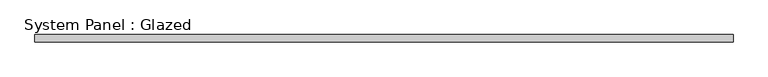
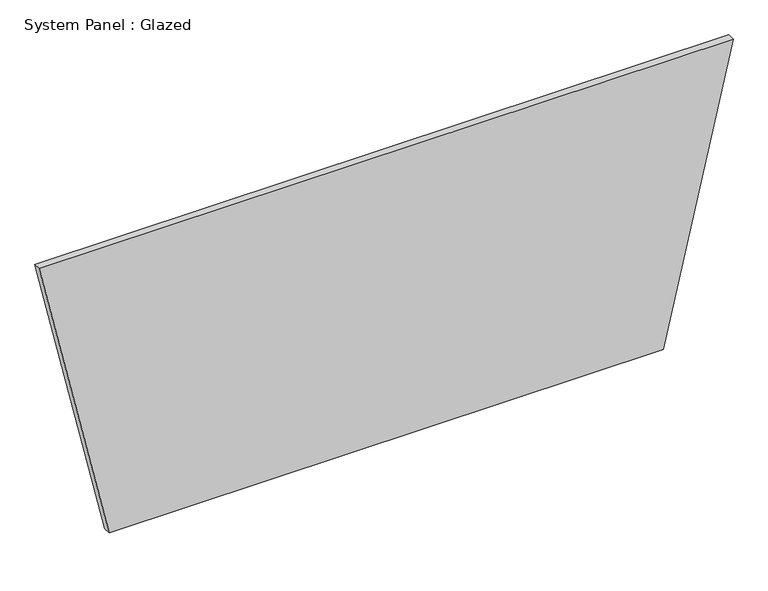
"""IFC4 building model written with IfcOpenShell, lengths in millimetres: plate geometry, System Panel : Glazed."""

import ifcopenshell
import ifcopenshell.guid

model = None  # the IFC model being written
_history = None  # IfcOwnerHistory: only IFC2X3 demands one
_inside = {}  # id of a spatial element -> (the spatial element, [elements in it])
_under = {}  # id of a project, library or spatial element -> (it, [spatial elements below it])
_declared = {}  # id of a project -> (the project, [libraries it declares])
_typed = {}  # id of a type object -> (the type object, [elements of that type])
_made_of = {}  # id of a material, layer set ... -> (it, [elements and type objects made of it])


def new_model(schema):
    """Start an empty IFC model of exactly this schema.

    Asked for "IFC4X3", IfcOpenShell would pick the latest addendum, in which some entities
    have other attributes; the version numbers below select the first issue.
    IFC2X3 requires an IfcOwnerHistory on every rooted entity: one is made here for all.
    """
    global model, _history
    if schema == "IFC4X3":
        model = ifcopenshell.file(schema_version=(4, 3, 0, 0))
    else:
        model = ifcopenshell.file(schema=schema)
    _inside.clear()
    _under.clear()
    _declared.clear()
    _typed.clear()
    _made_of.clear()
    _history = None
    if model.schema == "IFC2X3":
        org = make("IfcOrganization", Name="unknown")
        user = make(
            "IfcPersonAndOrganization",
            ThePerson=make("IfcPerson", FamilyName="unknown"),
            TheOrganization=org,
        )
        app = make(
            "IfcApplication",
            ApplicationDeveloper=org,
            Version="unknown",
            ApplicationFullName="unknown",
            ApplicationIdentifier="unknown",
        )
        _history = make(
            "IfcOwnerHistory",
            OwningUser=user,
            OwningApplication=app,
            ChangeAction="ADDED",
            CreationDate=0,
        )
    return model


def make(cls, **values):
    """One entity of the class cls with the attributes given. An attribute that is None is left unset."""
    return model.create_entity(
        cls, **{name: value for name, value in values.items() if value is not None}
    )


def rooted(cls, **values):
    """An entity with a GlobalId (a new one), such as an element, a storey or a relation."""
    return make(cls, GlobalId=ifcopenshell.guid.new(), OwnerHistory=_history, **values)


def si_unit(unit_type, name, prefix=None):
    """IfcSIUnit, for example si_unit("LENGTHUNIT", "METRE", prefix="MILLI")."""
    return make("IfcSIUnit", UnitType=unit_type, Prefix=prefix, Name=name)


def assignment(units):
    """IfcUnitAssignment: the units of a project."""
    return None if units is None else make("IfcUnitAssignment", Units=units)


def point(xyz):
    """IfcCartesianPoint."""
    return None if xyz is None else make("IfcCartesianPoint", Coordinates=xyz)


def direction(xyz):
    """IfcDirection."""
    return None if xyz is None else make("IfcDirection", DirectionRatios=xyz)


def frame(location, z_axis=None, x_axis=None):
    """IfcAxis2Placement3D, a coordinate frame: its origin and axes. An axis left out is left unset."""
    return make(
        "IfcAxis2Placement3D",
        Location=point(location),
        Axis=direction(z_axis),
        RefDirection=direction(x_axis),
    )


def origin():
    """The frame at (0, 0, 0) with its axes left unset."""
    return frame((0.0, 0.0, 0.0))


def place(relative_to, where):
    """IfcLocalPlacement: puts the frame where relative to a parent placement (None: the world)."""
    return make(
        "IfcLocalPlacement", PlacementRelTo=relative_to, RelativePlacement=where
    )


def context(
    kind, dimensions, precision=None, world=None, true_north=None, identifier=None
):
    """IfcGeometricRepresentationContext, for example the 3D "Model" context."""
    return make(
        "IfcGeometricRepresentationContext",
        ContextIdentifier=identifier,
        ContextType=kind,
        CoordinateSpaceDimension=dimensions,
        Precision=precision,
        WorldCoordinateSystem=world,
        TrueNorth=true_north,
    )


def project(units=None, contexts=None):
    """IfcProject with its units and contexts."""
    return rooted(
        "IfcProject",
        Name="project",
        RepresentationContexts=contexts,
        UnitsInContext=assignment(units),
    )


def spatial(cls, under=None, at=None, **own):
    """A site, building, storey or space (cls), placed at a placement, below another one or the project."""
    s = rooted(cls, ObjectPlacement=at, **own)
    if under is not None:
        _under.setdefault(under.id(), (under, []))[1].append(s)
    return s


def polyline(points):
    """IfcPolyline through the points."""
    return make("IfcPolyline", Points=[point(p) for p in points])


def outline(outer, holes=None, kind="AREA"):
    """IfcArbitraryClosedProfileDef: a profile drawn as a closed curve; with holes, ...WithVoids."""
    if holes is None:
        return make("IfcArbitraryClosedProfileDef", ProfileType=kind, OuterCurve=outer)
    return make(
        "IfcArbitraryProfileDefWithVoids",
        ProfileType=kind,
        OuterCurve=outer,
        InnerCurves=holes,
    )


def extrude(swept, where, along, depth):
    """IfcExtrudedAreaSolid: the profile swept, set in the frame where, extruded along a direction by depth."""
    return make(
        "IfcExtrudedAreaSolid",
        SweptArea=swept,
        Position=where,
        ExtrudedDirection=direction(along),
        Depth=depth,
    )


def shape(context_of_items, identifier, shape_type, items):
    """IfcShapeRepresentation: the items that make up one representation, for example the "Body"."""
    return make(
        "IfcShapeRepresentation",
        ContextOfItems=context_of_items,
        RepresentationIdentifier=identifier,
        RepresentationType=shape_type,
        Items=items,
    )


def source(mapping_origin, context_of_items, identifier, shape_type, items):
    """IfcRepresentationMap: a shape defined once, which mapped items show again and again."""
    return make(
        "IfcRepresentationMap",
        MappingOrigin=mapping_origin,
        MappedRepresentation=shape(context_of_items, identifier, shape_type, items),
    )


def transform(
    local_origin,
    x_axis=None,
    y_axis=None,
    z_axis=None,
    scale=None,
    scale2=None,
    scale3=None,
    uniform=True,
):
    """IfcCartesianTransformationOperator3D, or its non-uniform kind. x_axis, y_axis, z_axis: its Axis1, 2, 3."""
    if uniform:
        return make(
            "IfcCartesianTransformationOperator3D",
            Axis1=direction(x_axis),
            Axis2=direction(y_axis),
            LocalOrigin=point(local_origin),
            Scale=scale,
            Axis3=direction(z_axis),
        )
    return make(
        "IfcCartesianTransformationOperator3DnonUniform",
        Axis1=direction(x_axis),
        Axis2=direction(y_axis),
        LocalOrigin=point(local_origin),
        Scale=scale,
        Axis3=direction(z_axis),
        Scale2=scale2,
        Scale3=scale3,
    )


def mapped(mapping_source, mapping_target):
    """IfcMappedItem: shows the shape of a source again, moved by a transform."""
    return make(
        "IfcMappedItem", MappingSource=mapping_source, MappingTarget=mapping_target
    )


def made_of(thing, what):
    """Note that an element or type object is made of a material, layer set ...; save() writes the relation."""
    if what is not None:
        _made_of.setdefault(what.id(), (what, []))[1].append(thing)
    return thing


def element(
    cls,
    number,
    at=None,
    inside=None,
    cuts=None,
    type_object=None,
    material=None,
    context=None,
    identifier="Body",
    shape_type=None,
    held_by="IfcProductDefinitionShape",
    body=None,
    shapes=None,
    **own,
):
    """One element of the class cls, such as IfcWall. Its Tag is "e" and its number.

    at: its placement. inside: the storey or other place that contains it. cuts: it is an
    opening in that element (IfcRelVoidsElement). A single representation is given by context,
    identifier, shape_type and body (its items); several are given by shapes. held_by: the class
    of the entity that holds the representations. save() writes the other relations.
    """
    e = rooted(cls, Tag="e%d" % number, ObjectPlacement=at, **own)
    if body is not None:
        shapes = [shape(context, identifier, shape_type, body)]
    if shapes is not None:
        e.Representation = make(held_by, Representations=shapes)
    if inside is not None:
        _inside.setdefault(inside.id(), (inside, []))[1].append(e)
    if cuts is not None:
        rooted(
            "IfcRelVoidsElement", RelatingBuildingElement=cuts, RelatedOpeningElement=e
        )
    if type_object is not None:
        _typed.setdefault(type_object.id(), (type_object, []))[1].append(e)
    return made_of(e, material)


def aggregate(whole, parts):
    """IfcRelAggregates: a whole, such as a stair, and the parts it consists of."""
    return rooted("IfcRelAggregates", RelatingObject=whole, RelatedObjects=parts)


def save(model, path):
    """Write the relations noted so far, then the file.

    IfcRelAggregates (storeys below a building ...), IfcRelContainedInSpatialStructure (elements
    in a storey), IfcRelDefinesByType, IfcRelAssociatesMaterial and IfcRelDeclares: one each for
    every whole, place, type object, material and project.
    """
    for whole, parts in _under.values():
        aggregate(whole, parts)
    for where, things in _inside.values():
        rooted(
            "IfcRelContainedInSpatialStructure",
            RelatedElements=things,
            RelatingStructure=where,
        )
    for kind, things in _typed.values():
        rooted("IfcRelDefinesByType", RelatedObjects=things, RelatingType=kind)
    for what, things in _made_of.values():
        rooted("IfcRelAssociatesMaterial", RelatedObjects=things, RelatingMaterial=what)
    for by, libraries in _declared.values():
        rooted("IfcRelDeclares", RelatingContext=by, RelatedDefinitions=libraries)
    model.write(path)


def system_panel_glazed_0031539c(model_context):
    return source(origin(), model_context, "Body", "SweptSolid", [
        extrude(outline(polyline([(0.0, -947.3194639), (0.0, 947.3194639), (1039.6160692, 1186.6114793), (1039.6160692, -1186.6114793), (0.0, -947.3194639)])), frame((0.0, -44.45, 0.0), z_axis=(0.0, 1.0, 0.0), x_axis=(0.0, 0.0, 1.0)), (0.0, 0.0, 1.0), 25.4),
    ])


if __name__ == "__main__":
    model = new_model("IFC4")
    model_context = context("Model", 3, world=origin())
    ifc_project = project(units=[si_unit("LENGTHUNIT", "METRE", prefix="MILLI")], contexts=[model_context])
    site = spatial("IfcSite", under=ifc_project)
    building = spatial("IfcBuilding", under=site)
    placement = place(None, origin())
    system_panel_glazed_shape = system_panel_glazed_0031539c(model_context)
    element("IfcPlate", 1, ObjectType="System Panel : Glazed", at=placement, inside=building, context=model_context, shape_type="MappedRepresentation", body=[
        mapped(system_panel_glazed_shape, transform((0.0, 0.0, 0.0), x_axis=(1.0, 0.0, 0.0), y_axis=(0.0, 1.0, 0.0), z_axis=(0.0, 0.0, 1.0))),
    ])
    save(model, "model.ifc")
